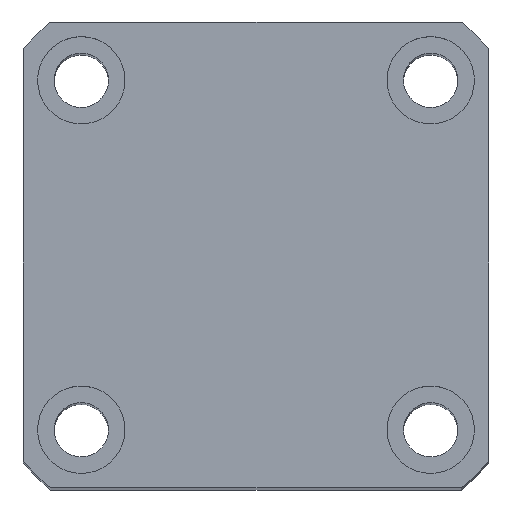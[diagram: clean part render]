
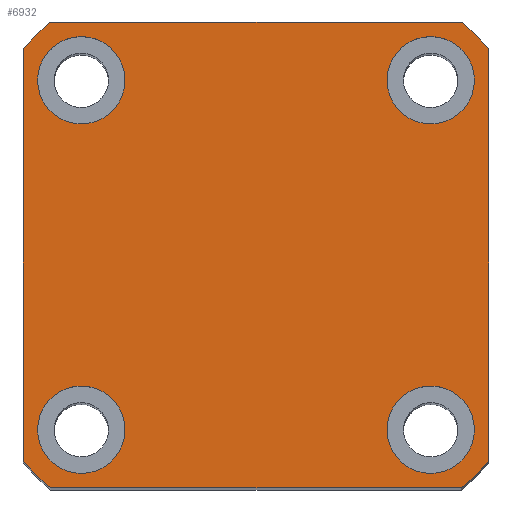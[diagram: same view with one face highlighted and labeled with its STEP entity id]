
A CAD part, top view. The second image highlights one B-rep face of the part: STEP entity #6932.
In plain terms, the highlighted planar face has unit normal (0, 0, 1) as drawn and (1, 0, 0) by its records, which use the part's own axes.
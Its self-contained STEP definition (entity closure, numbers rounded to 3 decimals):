
#66 = DIRECTION ( 'NONE',  ( 1., 0., 0. ) ) ;
#68 = AXIS2_PLACEMENT_3D ( 'NONE', #1225, #5614, #1846 ) ;
#70 = CARTESIAN_POINT ( 'NONE',  ( 120., -18., 13.5 ) ) ;
#168 = ORIENTED_EDGE ( 'NONE', *, *, #2273, .T. ) ;
#241 = FACE_OUTER_BOUND ( 'NONE', #6957, .T. ) ;
#430 = ORIENTED_EDGE ( 'NONE', *, *, #8080, .F. ) ;
#437 = FACE_BOUND ( 'NONE', #1741, .T. ) ;
#500 = DIRECTION ( 'NONE',  ( 0., 0., -1. ) ) ;
#512 = DIRECTION ( 'NONE',  ( 0., 0., -1. ) ) ;
#590 = ORIENTED_EDGE ( 'NONE', *, *, #4192, .F. ) ;
#800 = VERTEX_POINT ( 'NONE', #4227 ) ;
#848 = FACE_BOUND ( 'NONE', #7907, .T. ) ;
#871 = DIRECTION ( 'NONE',  ( 1., 0., 0. ) ) ;
#878 = VERTEX_POINT ( 'NONE', #4548 ) ;
#885 = DIRECTION ( 'NONE',  ( 1., 0., 0. ) ) ;
#977 = VERTEX_POINT ( 'NONE', #7744 ) ;
#1013 = EDGE_CURVE ( 'NONE', #977, #2886, #2796, .T. ) ;
#1095 = CIRCLE ( 'NONE', #4005, 4.5 ) ;
#1187 = ORIENTED_EDGE ( 'NONE', *, *, #7477, .F. ) ;
#1225 = CARTESIAN_POINT ( 'NONE',  ( 120., -18., -18. ) ) ;
#1287 = CIRCLE ( 'NONE', #6671, 32. ) ;
#1379 = AXIS2_PLACEMENT_3D ( 'NONE', #2532, #6873, #3153 ) ;
#1437 = PLANE ( 'NONE',  #4163 ) ;
#1459 = CARTESIAN_POINT ( 'NONE',  ( 120., 0., 0. ) ) ;
#1485 = DIRECTION ( 'NONE',  ( 0., 1., 0. ) ) ;
#1543 = CARTESIAN_POINT ( 'NONE',  ( 120., 0., 0. ) ) ;
#1563 = CIRCLE ( 'NONE', #3137, 4.5 ) ;
#1717 = EDGE_CURVE ( 'NONE', #3044, #6211, #6878, .T. ) ;
#1741 = EDGE_LOOP ( 'NONE', ( #3881, #3076 ) ) ;
#1841 = CARTESIAN_POINT ( 'NONE',  ( 120., 18., 13.5 ) ) ;
#1846 = DIRECTION ( 'NONE',  ( 0., 0., -1. ) ) ;
#1904 = FACE_BOUND ( 'NONE', #2993, .T. ) ;
#1926 = CARTESIAN_POINT ( 'NONE',  ( 120., -21.166, 24. ) ) ;
#1944 = CARTESIAN_POINT ( 'NONE',  ( 120., 24., 21.166 ) ) ;
#1968 = CARTESIAN_POINT ( 'NONE',  ( 120., -18., 22.5 ) ) ;
#1971 = VERTEX_POINT ( 'NONE', #5556 ) ;
#2100 = DIRECTION ( 'NONE',  ( 0., 0., -1. ) ) ;
#2187 = DIRECTION ( 'NONE',  ( 0., 0., -1. ) ) ;
#2273 = EDGE_CURVE ( 'NONE', #5956, #1971, #3473, .T. ) ;
#2293 = VERTEX_POINT ( 'NONE', #1968 ) ;
#2527 = ORIENTED_EDGE ( 'NONE', *, *, #1717, .T. ) ;
#2532 = CARTESIAN_POINT ( 'NONE',  ( 120., 18., -18. ) ) ;
#2582 = VECTOR ( 'NONE', #1485, 1000. ) ;
#2632 = CIRCLE ( 'NONE', #2975, 4.5 ) ;
#2753 = CARTESIAN_POINT ( 'NONE',  ( 120., 18., -18. ) ) ;
#2796 = LINE ( 'NONE', #7994, #6114 ) ;
#2826 = VERTEX_POINT ( 'NONE', #1841 ) ;
#2846 = ORIENTED_EDGE ( 'NONE', *, *, #2856, .F. ) ;
#2856 = EDGE_CURVE ( 'NONE', #6141, #7059, #4823, .T. ) ;
#2884 = AXIS2_PLACEMENT_3D ( 'NONE', #3530, #7856, #4142 ) ;
#2886 = VERTEX_POINT ( 'NONE', #1926 ) ;
#2941 = ORIENTED_EDGE ( 'NONE', *, *, #3904, .T. ) ;
#2968 = CARTESIAN_POINT ( 'NONE',  ( 120., 18., -13.5 ) ) ;
#2975 = AXIS2_PLACEMENT_3D ( 'NONE', #3629, #7949, #4235 ) ;
#2993 = EDGE_LOOP ( 'NONE', ( #4346, #430 ) ) ;
#3044 = VERTEX_POINT ( 'NONE', #3911 ) ;
#3076 = ORIENTED_EDGE ( 'NONE', *, *, #5252, .F. ) ;
#3080 = LINE ( 'NONE', #7558, #7622 ) ;
#3137 = AXIS2_PLACEMENT_3D ( 'NONE', #7960, #4249, #512 ) ;
#3153 = DIRECTION ( 'NONE',  ( 0., 0., -1. ) ) ;
#3228 = EDGE_CURVE ( 'NONE', #1971, #3344, #7997, .T. ) ;
#3337 = ORIENTED_EDGE ( 'NONE', *, *, #7975, .T. ) ;
#3344 = VERTEX_POINT ( 'NONE', #1944 ) ;
#3375 = DIRECTION ( 'NONE',  ( 0., 0., -1. ) ) ;
#3415 = CARTESIAN_POINT ( 'NONE',  ( 120., -18., 18. ) ) ;
#3422 = EDGE_CURVE ( 'NONE', #878, #3044, #3080, .T. ) ;
#3473 = CIRCLE ( 'NONE', #6374, 32. ) ;
#3530 = CARTESIAN_POINT ( 'NONE',  ( 120., -18., 18. ) ) ;
#3582 = FACE_BOUND ( 'NONE', #4697, .T. ) ;
#3629 = CARTESIAN_POINT ( 'NONE',  ( 120., 18., 18. ) ) ;
#3837 = CARTESIAN_POINT ( 'NONE',  ( 120., 0., 0. ) ) ;
#3844 = EDGE_CURVE ( 'NONE', #2886, #878, #1287, .T. ) ;
#3881 = ORIENTED_EDGE ( 'NONE', *, *, #5842, .F. ) ;
#3904 = EDGE_CURVE ( 'NONE', #6211, #5956, #4211, .T. ) ;
#3911 = CARTESIAN_POINT ( 'NONE',  ( 120., -24., -21.166 ) ) ;
#3990 = EDGE_CURVE ( 'NONE', #7318, #2293, #1095, .T. ) ;
#4005 = AXIS2_PLACEMENT_3D ( 'NONE', #3415, #7749, #4038 ) ;
#4038 = DIRECTION ( 'NONE',  ( 0., 0., -1. ) ) ;
#4142 = DIRECTION ( 'NONE',  ( 0., 0., -1. ) ) ;
#4163 = AXIS2_PLACEMENT_3D ( 'NONE', #4608, #871, #5240 ) ;
#4192 = EDGE_CURVE ( 'NONE', #4698, #6123, #6765, .T. ) ;
#4211 = LINE ( 'NONE', #6480, #2582 ) ;
#4227 = CARTESIAN_POINT ( 'NONE',  ( 120., 18., 22.5 ) ) ;
#4235 = DIRECTION ( 'NONE',  ( 0., 0., -1. ) ) ;
#4236 = DIRECTION ( 'NONE',  ( 1., 0., 0. ) ) ;
#4249 = DIRECTION ( 'NONE',  ( 1., 0., 0. ) ) ;
#4346 = ORIENTED_EDGE ( 'NONE', *, *, #3990, .F. ) ;
#4422 = AXIS2_PLACEMENT_3D ( 'NONE', #2753, #7111, #3375 ) ;
#4449 = DIRECTION ( 'NONE',  ( 0., 0., -1. ) ) ;
#4548 = CARTESIAN_POINT ( 'NONE',  ( 120., -24., 21.166 ) ) ;
#4608 = CARTESIAN_POINT ( 'NONE',  ( 120., 0., 0. ) ) ;
#4624 = CARTESIAN_POINT ( 'NONE',  ( 120., 0., 0. ) ) ;
#4697 = EDGE_LOOP ( 'NONE', ( #6904, #590 ) ) ;
#4698 = VERTEX_POINT ( 'NONE', #5472 ) ;
#4775 = CARTESIAN_POINT ( 'NONE',  ( 120., 18., -22.5 ) ) ;
#4823 = CIRCLE ( 'NONE', #1379, 4.5 ) ;
#4920 = VECTOR ( 'NONE', #6553, 1000. ) ;
#5240 = DIRECTION ( 'NONE',  ( 0., 0., -1. ) ) ;
#5252 = EDGE_CURVE ( 'NONE', #800, #2826, #1563, .T. ) ;
#5254 = DIRECTION ( 'NONE',  ( 0., 0., -1. ) ) ;
#5446 = CARTESIAN_POINT ( 'NONE',  ( 120., -18., -22.5 ) ) ;
#5472 = CARTESIAN_POINT ( 'NONE',  ( 120., -18., -13.5 ) ) ;
#5545 = AXIS2_PLACEMENT_3D ( 'NONE', #1543, #5935, #2187 ) ;
#5556 = CARTESIAN_POINT ( 'NONE',  ( 120., 24., -21.166 ) ) ;
#5614 = DIRECTION ( 'NONE',  ( 1., 0., 0. ) ) ;
#5842 = EDGE_CURVE ( 'NONE', #2826, #800, #2632, .T. ) ;
#5860 = DIRECTION ( 'NONE',  ( 1., 0., 0. ) ) ;
#5935 = DIRECTION ( 'NONE',  ( 1., 0., 0. ) ) ;
#5956 = VERTEX_POINT ( 'NONE', #6227 ) ;
#6114 = VECTOR ( 'NONE', #7729, 1000. ) ;
#6123 = VERTEX_POINT ( 'NONE', #5446 ) ;
#6141 = VERTEX_POINT ( 'NONE', #2968 ) ;
#6193 = ORIENTED_EDGE ( 'NONE', *, *, #1013, .T. ) ;
#6211 = VERTEX_POINT ( 'NONE', #8042 ) ;
#6226 = CARTESIAN_POINT ( 'NONE',  ( 120., 24., 24. ) ) ;
#6227 = CARTESIAN_POINT ( 'NONE',  ( 120., 21.166, -24. ) ) ;
#6236 = ORIENTED_EDGE ( 'NONE', *, *, #3844, .T. ) ;
#6374 = AXIS2_PLACEMENT_3D ( 'NONE', #3837, #66, #4449 ) ;
#6411 = CIRCLE ( 'NONE', #2884, 4.5 ) ;
#6421 = CIRCLE ( 'NONE', #4422, 4.5 ) ;
#6480 = CARTESIAN_POINT ( 'NONE',  ( 120., 24., -24. ) ) ;
#6524 = AXIS2_PLACEMENT_3D ( 'NONE', #7950, #4236, #500 ) ;
#6553 = DIRECTION ( 'NONE',  ( 0., 0., 1. ) ) ;
#6671 = AXIS2_PLACEMENT_3D ( 'NONE', #1459, #5860, #2100 ) ;
#6765 = CIRCLE ( 'NONE', #6524, 4.5 ) ;
#6780 = ORIENTED_EDGE ( 'NONE', *, *, #3228, .T. ) ;
#6847 = ORIENTED_EDGE ( 'NONE', *, *, #3422, .T. ) ;
#6873 = DIRECTION ( 'NONE',  ( 1., 0., 0. ) ) ;
#6878 = CIRCLE ( 'NONE', #6929, 32. ) ;
#6894 = DIRECTION ( 'NONE',  ( 0., 0., -1. ) ) ;
#6904 = ORIENTED_EDGE ( 'NONE', *, *, #7722, .F. ) ;
#6929 = AXIS2_PLACEMENT_3D ( 'NONE', #4624, #885, #5254 ) ;
#6932 = ADVANCED_FACE ( 'NONE', ( #3582, #1904, #848, #437, #241 ), #1437, .T. ) ;
#6957 = EDGE_LOOP ( 'NONE', ( #2941, #168, #6780, #3337, #6193, #6236, #6847, #2527 ) ) ;
#7059 = VERTEX_POINT ( 'NONE', #4775 ) ;
#7111 = DIRECTION ( 'NONE',  ( 1., 0., 0. ) ) ;
#7318 = VERTEX_POINT ( 'NONE', #70 ) ;
#7464 = CIRCLE ( 'NONE', #68, 4.5 ) ;
#7477 = EDGE_CURVE ( 'NONE', #7059, #6141, #6421, .T. ) ;
#7549 = CIRCLE ( 'NONE', #5545, 32. ) ;
#7558 = CARTESIAN_POINT ( 'NONE',  ( 120., -24., 24. ) ) ;
#7622 = VECTOR ( 'NONE', #6894, 1000. ) ;
#7722 = EDGE_CURVE ( 'NONE', #6123, #4698, #7464, .T. ) ;
#7729 = DIRECTION ( 'NONE',  ( 0., -1., 0. ) ) ;
#7744 = CARTESIAN_POINT ( 'NONE',  ( 120., 21.166, 24. ) ) ;
#7749 = DIRECTION ( 'NONE',  ( 1., 0., 0. ) ) ;
#7856 = DIRECTION ( 'NONE',  ( 1., 0., 0. ) ) ;
#7907 = EDGE_LOOP ( 'NONE', ( #1187, #2846 ) ) ;
#7949 = DIRECTION ( 'NONE',  ( 1., 0., 0. ) ) ;
#7950 = CARTESIAN_POINT ( 'NONE',  ( 120., -18., -18. ) ) ;
#7960 = CARTESIAN_POINT ( 'NONE',  ( 120., 18., 18. ) ) ;
#7975 = EDGE_CURVE ( 'NONE', #3344, #977, #7549, .T. ) ;
#7994 = CARTESIAN_POINT ( 'NONE',  ( 120., 24., 24. ) ) ;
#7997 = LINE ( 'NONE', #6226, #4920 ) ;
#8042 = CARTESIAN_POINT ( 'NONE',  ( 120., -21.166, -24. ) ) ;
#8080 = EDGE_CURVE ( 'NONE', #2293, #7318, #6411, .T. ) ;
